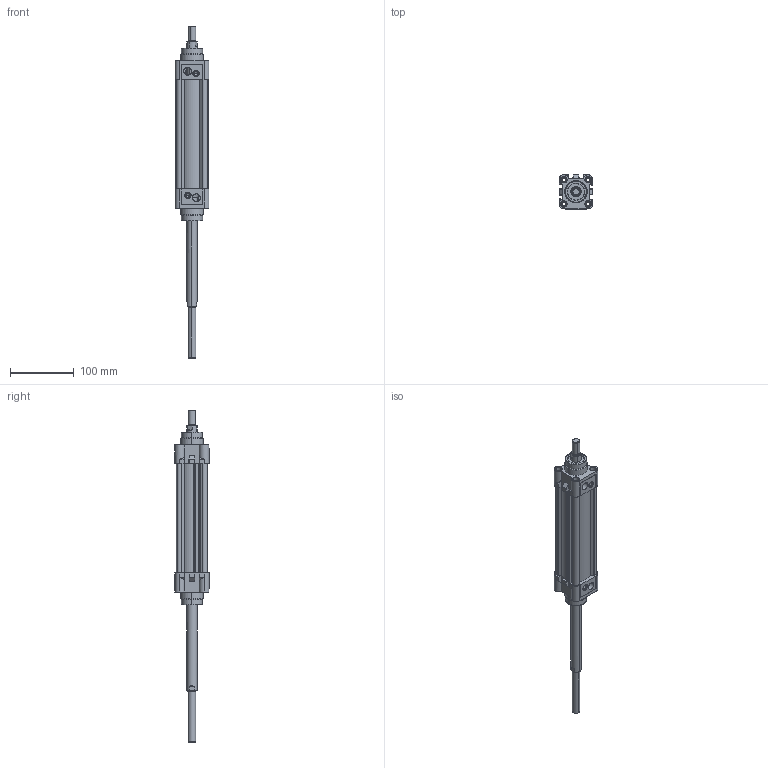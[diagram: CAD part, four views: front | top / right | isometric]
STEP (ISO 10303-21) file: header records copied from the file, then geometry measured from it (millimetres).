
FILE_DESCRIPTION (( 'STEP AP203' ), '1' );
FILE_NAME ('KDNT40X125CIFTMILLI-STROK AYARLI-CYLINDER.STEP', '2016-03-24T11:53:56', ( 'user' ), ( '' ), 'SwSTEP 2.0', 'SolidWorks 2013', '' );
FILE_SCHEMA (( 'CONFIG_CONTROL_DESIGN' ));
Length unit declared in the file: millimetre
Products named in the file (6): Saplama Mili STROK AYARLI 40X125 STROK; KDNT40X125CIFTMILLI-STROK AYARLI-CYLINDER; 烰 KAPAK  40; KDNT 40X125 BORU; ORTA PÝSTON 40 Çift Milli; PÝSTON MÝLÝ 40X125
Assembly tree (6 placements, depth 2):
  KDNT40X125CIFTMILLI-STROK AYARLI-CYLINDER
    烰 KAPAK  40  x2
    KDNT 40X125 BORU
    ORTA PÝSTON 40 Çift Milli
    PÝSTON MÝLÝ 40X125
    Saplama Mili STROK AYARLI 40X125 STROK
Bounding box: 53.06 x 53.36 x 519.1 mm (x, y, z)
Volume: 353995.4 mm3; surface area: 162681.4 mm2
Topology: 6 solids, 6 shells, 712 faces, 1724 edges, 1076 vertices
Faces by surface type: cylinder 322, plane 210, cone 112, bspline 54, torus 14
Entity records: 16497 total; most frequent: CARTESIAN_POINT 4805, DIRECTION 2340, ORIENTED_EDGE 2302, EDGE_CURVE 1151, AXIS2_PLACEMENT_3D 917, VERTEX_POINT 725, EDGE_LOOP 544, LINE 506
